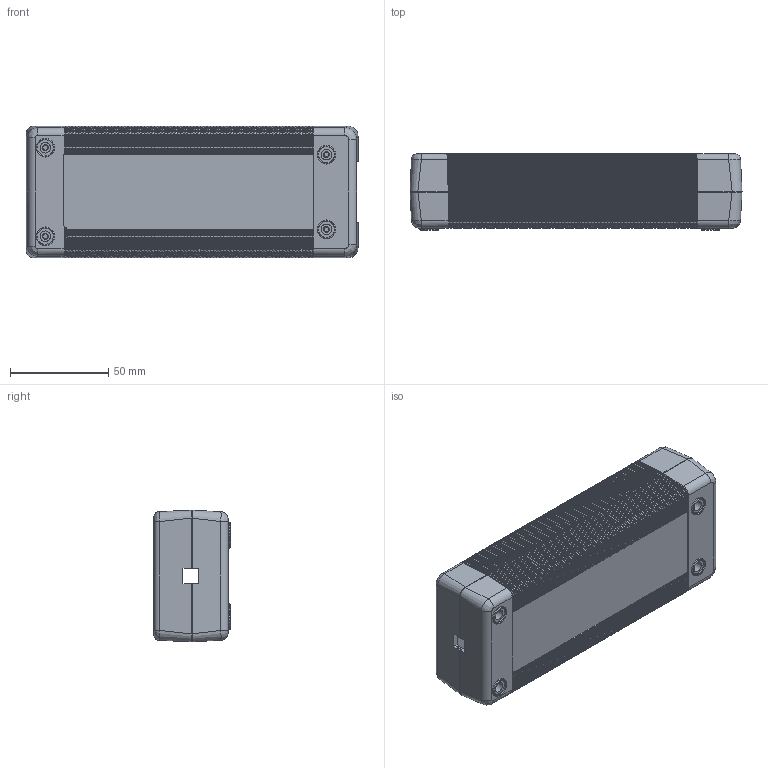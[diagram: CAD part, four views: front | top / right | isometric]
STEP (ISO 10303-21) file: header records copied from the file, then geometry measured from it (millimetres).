
FILE_DESCRIPTION (( 'STEP AP214' ), '1' );
FILE_NAME ('PR313EU3.STEP', '2024-04-04T06:38:16', ( '' ), ( '' ), 'SwSTEP 2.0', 'SolidWorks 2024', '' );
FILE_SCHEMA (( 'AUTOMOTIVE_DESIGN' ));
Length unit declared in the file: millimetre
Products named in the file (5): AA.stp; BB.stp; PR313EU3; TOUMING.stp; asm0001_asm.stp
Assembly tree (4 placements, depth 3):
  PR313EU3
    asm0001_asm.stp
      AA.stp
      BB.stp
      TOUMING.stp
Bounding box: 169 x 38.8 x 67 mm (x, y, z)
Volume: 87841.4 mm3; surface area: 89044.8 mm2
Topology: 3 solids, 3 shells, 5285 faces, 12339 edges, 7086 vertices
Faces by surface type: plane 2001, cylinder 1350, bspline 960, cone 492, torus 482
Entity records: 205969 total; most frequent: CARTESIAN_POINT 97958, ORIENTED_EDGE 24678, DIRECTION 18805, EDGE_CURVE 12339, VERTEX_POINT 7086, AXIS2_PLACEMENT_3D 6633, LINE 5539, VECTOR 5539
